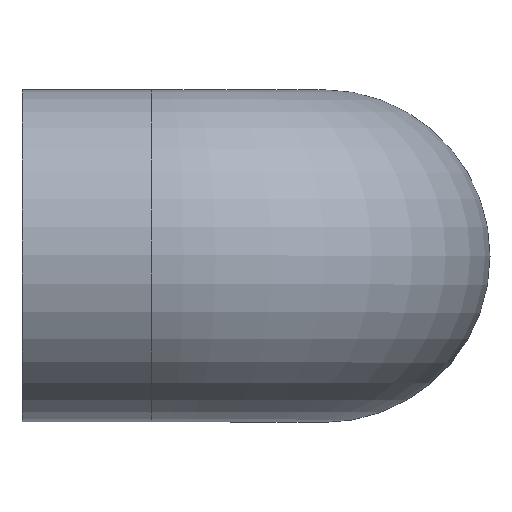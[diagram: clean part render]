
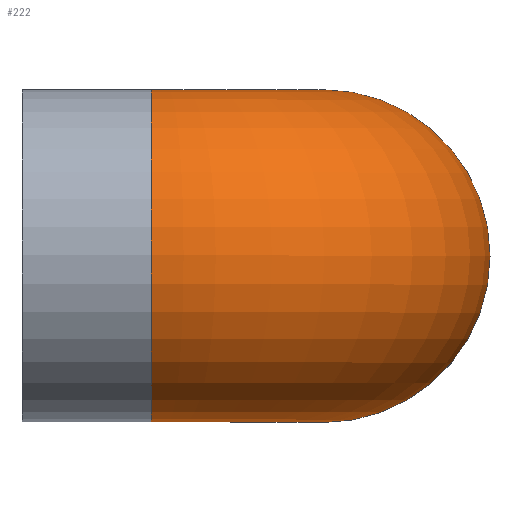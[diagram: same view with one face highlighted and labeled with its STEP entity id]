
A CAD part, top view. The second image highlights one B-rep face of the part: STEP entity #222.
In plain terms, the highlighted toroidal (fillet/blend) face has major radius 67.5 mm and minor radius 65 mm.
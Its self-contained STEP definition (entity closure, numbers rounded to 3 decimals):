
#25=FACE_BOUND('',#77,.T.);
#30=TOROIDAL_SURFACE('',#245,67.5,65.);
#54=FACE_OUTER_BOUND('',#76,.T.);
#76=EDGE_LOOP('',(#193));
#77=EDGE_LOOP('',(#194));
#93=CIRCLE('',#244,65.);
#94=CIRCLE('',#246,65.);
#124=VERTEX_POINT('',#6535);
#125=VERTEX_POINT('',#6538);
#150=EDGE_CURVE('',#124,#124,#93,.T.);
#151=EDGE_CURVE('',#125,#125,#94,.T.);
#193=ORIENTED_EDGE('',*,*,#150,.F.);
#194=ORIENTED_EDGE('',*,*,#151,.T.);
#222=ADVANCED_FACE('',(#54,#25),#30,.T.);
#244=AXIS2_PLACEMENT_3D('',#6536,#288,#289);
#245=AXIS2_PLACEMENT_3D('',#6537,#290,#291);
#246=AXIS2_PLACEMENT_3D('',#6539,#292,#293);
#288=DIRECTION('center_axis',(-1.,0.,0.));
#289=DIRECTION('ref_axis',(0.,0.,-1.));
#290=DIRECTION('center_axis',(0.,-1.,0.));
#291=DIRECTION('ref_axis',(0.,0.,-1.));
#292=DIRECTION('center_axis',(0.,0.,1.));
#293=DIRECTION('ref_axis',(-1.,0.,0.));
#6535=CARTESIAN_POINT('',(-67.5,0.,183.));
#6536=CARTESIAN_POINT('Origin',(-67.5,0.,118.));
#6537=CARTESIAN_POINT('Origin',(-67.5,0.,50.5));
#6538=CARTESIAN_POINT('',(65.,0.,50.5));
#6539=CARTESIAN_POINT('Origin',(0.,0.,50.5));
